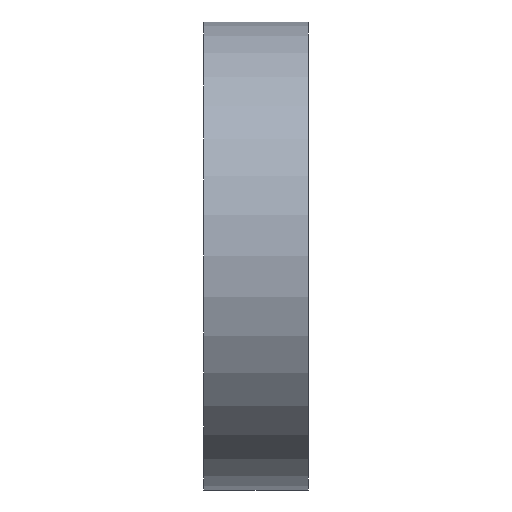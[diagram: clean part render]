
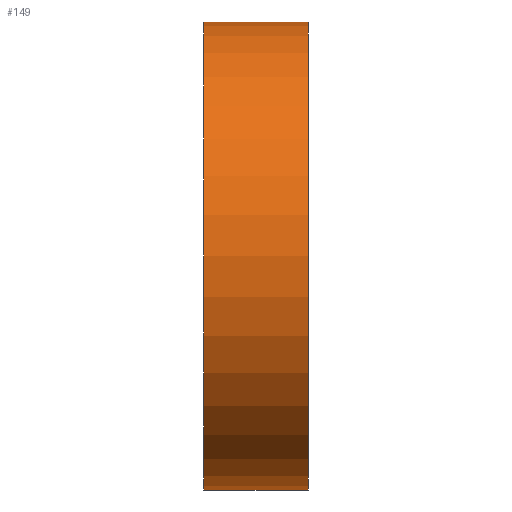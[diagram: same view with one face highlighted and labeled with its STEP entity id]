
A CAD part, left-side view. The second image highlights one B-rep face of the part: STEP entity #149.
In plain terms, the highlighted cylindrical face has radius 38.1 mm (diameter 76.2 mm), a partial arc.
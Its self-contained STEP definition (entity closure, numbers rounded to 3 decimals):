
#4 = VERTEX_POINT ( 'NONE', #414 ) ;
#9 = VERTEX_POINT ( 'NONE', #41 ) ;
#22 = AXIS2_PLACEMENT_3D ( 'NONE', #325, #435, #368 ) ;
#26 = FACE_OUTER_BOUND ( 'NONE', #272, .T. ) ;
#38 = ORIENTED_EDGE ( 'NONE', *, *, #101, .F. ) ;
#41 = CARTESIAN_POINT ( 'NONE',  ( 0., 16., -38.1 ) ) ;
#42 = CARTESIAN_POINT ( 'NONE',  ( 0., -1., 38.1 ) ) ;
#48 = ORIENTED_EDGE ( 'NONE', *, *, #250, .T. ) ;
#59 = DIRECTION ( 'NONE',  ( 0., 1., 0. ) ) ;
#64 = CARTESIAN_POINT ( 'NONE',  ( 0., -1., -38.1 ) ) ;
#94 = AXIS2_PLACEMENT_3D ( 'NONE', #468, #244, #440 ) ;
#101 = EDGE_CURVE ( 'NONE', #9, #4, #122, .T. ) ;
#116 = CARTESIAN_POINT ( 'NONE',  ( 0., -1., 0. ) ) ;
#122 = CIRCLE ( 'NONE', #94, 38.1 ) ;
#143 = EDGE_CURVE ( 'NONE', #297, #9, #254, .T. ) ;
#149 = ADVANCED_FACE ( 'NONE', ( #26 ), #280, .T. ) ;
#154 = DIRECTION ( 'NONE',  ( 0., 1., 0. ) ) ;
#162 = VECTOR ( 'NONE', #154, 1000. ) ;
#168 = VECTOR ( 'NONE', #59, 1000. ) ;
#216 = CIRCLE ( 'NONE', #453, 38.1 ) ;
#244 = DIRECTION ( 'NONE',  ( 0., 1., 0. ) ) ;
#250 = EDGE_CURVE ( 'NONE', #297, #380, #216, .T. ) ;
#254 = LINE ( 'NONE', #64, #168 ) ;
#272 = EDGE_LOOP ( 'NONE', ( #328, #48, #371, #38 ) ) ;
#280 = CYLINDRICAL_SURFACE ( 'NONE', #22, 38.1 ) ;
#289 = LINE ( 'NONE', #42, #162 ) ;
#297 = VERTEX_POINT ( 'NONE', #420 ) ;
#306 = EDGE_CURVE ( 'NONE', #380, #4, #289, .T. ) ;
#311 = DIRECTION ( 'NONE',  ( 0., 0., 1. ) ) ;
#325 = CARTESIAN_POINT ( 'NONE',  ( 0., -1., 0. ) ) ;
#328 = ORIENTED_EDGE ( 'NONE', *, *, #143, .F. ) ;
#368 = DIRECTION ( 'NONE',  ( 0., 0., 1. ) ) ;
#371 = ORIENTED_EDGE ( 'NONE', *, *, #306, .T. ) ;
#380 = VERTEX_POINT ( 'NONE', #429 ) ;
#414 = CARTESIAN_POINT ( 'NONE',  ( 0., 16., 38.1 ) ) ;
#420 = CARTESIAN_POINT ( 'NONE',  ( 0., -1., -38.1 ) ) ;
#429 = CARTESIAN_POINT ( 'NONE',  ( 0., -1., 38.1 ) ) ;
#435 = DIRECTION ( 'NONE',  ( 0., 1., 0. ) ) ;
#440 = DIRECTION ( 'NONE',  ( 0., 0., 1. ) ) ;
#453 = AXIS2_PLACEMENT_3D ( 'NONE', #116, #454, #311 ) ;
#454 = DIRECTION ( 'NONE',  ( 0., 1., 0. ) ) ;
#468 = CARTESIAN_POINT ( 'NONE',  ( 0., 16., 0. ) ) ;
